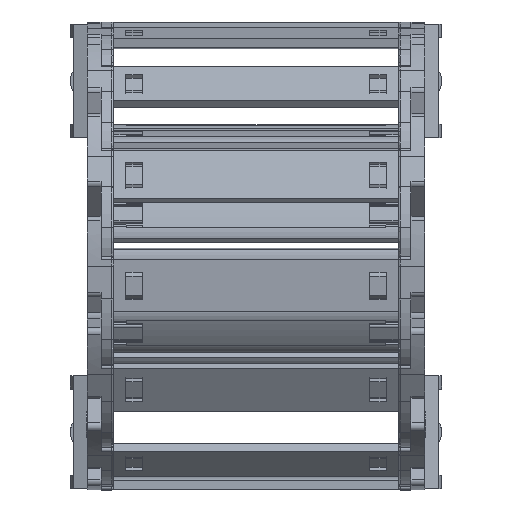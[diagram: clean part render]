
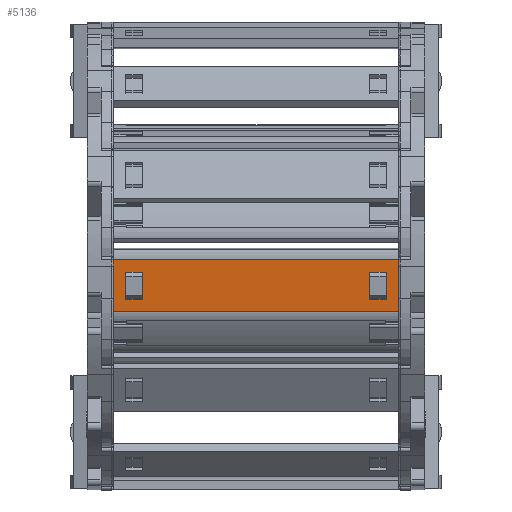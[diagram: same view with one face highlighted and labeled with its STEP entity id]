
A CAD part, top view. The second image highlights one B-rep face of the part: STEP entity #5136.
In plain terms, the highlighted planar face has unit normal (0, -0.104, 0.995) as drawn and (0, 1, 0) by its records, which use the part's own axes.
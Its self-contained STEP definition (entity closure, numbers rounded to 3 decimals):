
#4541=DIRECTION('',(0.,0.,-1.));
#4542=VECTOR('',#4541,11.);
#4543=CARTESIAN_POINT('',(49.283,1.24,5.5));
#4544=LINE('',#4543,#4542);
#4567=DIRECTION('',(1.,0.,0.));
#4568=VECTOR('',#4567,60.5);
#4569=CARTESIAN_POINT('',(-11.217,1.24,5.5));
#4570=LINE('',#4569,#4568);
#4571=DIRECTION('',(0.,0.,1.));
#4572=VECTOR('',#4571,11.);
#4573=CARTESIAN_POINT('',(-11.217,1.24,-5.5));
#4574=LINE('',#4573,#4572);
#4597=DIRECTION('',(1.,0.,0.));
#4598=VECTOR('',#4597,60.5);
#4599=CARTESIAN_POINT('',(-11.217,1.24,-5.5));
#4600=LINE('',#4599,#4598);
#4601=DIRECTION('',(1.,0.,0.));
#4602=VECTOR('',#4601,3.6);
#4603=CARTESIAN_POINT('',(-8.605,1.24,2.899));
#4604=LINE('',#4603,#4602);
#4605=DIRECTION('',(0.,0.,-1.));
#4606=VECTOR('',#4605,5.798);
#4607=CARTESIAN_POINT('',(-5.005,1.24,2.899));
#4608=LINE('',#4607,#4606);
#4609=DIRECTION('',(-1.,0.,0.));
#4610=VECTOR('',#4609,3.6);
#4611=CARTESIAN_POINT('',(-5.005,1.24,-2.899));
#4612=LINE('',#4611,#4610);
#4613=DIRECTION('',(0.,0.,1.));
#4614=VECTOR('',#4613,5.798);
#4615=CARTESIAN_POINT('',(-8.605,1.24,-2.899));
#4616=LINE('',#4615,#4614);
#4617=DIRECTION('',(1.,0.,0.));
#4618=VECTOR('',#4617,3.6);
#4619=CARTESIAN_POINT('',(43.071,1.24,2.899));
#4620=LINE('',#4619,#4618);
#4621=DIRECTION('',(0.,0.,-1.));
#4622=VECTOR('',#4621,5.798);
#4623=CARTESIAN_POINT('',(46.671,1.24,2.899));
#4624=LINE('',#4623,#4622);
#4625=DIRECTION('',(-1.,0.,0.));
#4626=VECTOR('',#4625,3.6);
#4627=CARTESIAN_POINT('',(46.671,1.24,-2.899));
#4628=LINE('',#4627,#4626);
#4629=DIRECTION('',(0.,0.,1.));
#4630=VECTOR('',#4629,5.798);
#4631=CARTESIAN_POINT('',(43.071,1.24,-2.899));
#4632=LINE('',#4631,#4630);
#4940=CARTESIAN_POINT('',(49.283,1.24,5.5));
#4942=VERTEX_POINT('',#4940);
#4943=CARTESIAN_POINT('',(49.283,1.24,-5.5));
#4944=VERTEX_POINT('',#4943);
#4951=CARTESIAN_POINT('',(43.071,1.24,2.899));
#4952=CARTESIAN_POINT('',(46.671,1.24,2.899));
#4953=VERTEX_POINT('',#4951);
#4954=VERTEX_POINT('',#4952);
#4955=CARTESIAN_POINT('',(46.671,1.24,-2.899));
#4956=VERTEX_POINT('',#4955);
#4957=CARTESIAN_POINT('',(43.071,1.24,-2.899));
#4958=VERTEX_POINT('',#4957);
#4995=CARTESIAN_POINT('',(-11.217,1.24,5.5));
#4997=VERTEX_POINT('',#4995);
#4999=CARTESIAN_POINT('',(-11.217,1.24,-5.5));
#5000=VERTEX_POINT('',#4999);
#5007=CARTESIAN_POINT('',(-8.605,1.24,2.899));
#5008=CARTESIAN_POINT('',(-5.005,1.24,2.899));
#5009=VERTEX_POINT('',#5007);
#5010=VERTEX_POINT('',#5008);
#5011=CARTESIAN_POINT('',(-5.005,1.24,-2.899));
#5012=VERTEX_POINT('',#5011);
#5013=CARTESIAN_POINT('',(-8.605,1.24,-2.899));
#5014=VERTEX_POINT('',#5013);
#5104=CARTESIAN_POINT('',(61.769,1.24,6.978));
#5105=DIRECTION('',(0.,-1.,0.));
#5106=DIRECTION('',(0.,0.,-1.));
#5107=AXIS2_PLACEMENT_3D('',#5104,#5105,#5106);
#5108=PLANE('',#5107);
#5109=ORIENTED_EDGE('',*,*,#5050,.F.);
#5110=ORIENTED_EDGE('',*,*,#5073,.F.);
#5111=ORIENTED_EDGE('',*,*,#5086,.F.);
#5113=ORIENTED_EDGE('',*,*,#5112,.T.);
#5114=EDGE_LOOP('',(#5109,#5110,#5111,#5113));
#5115=FACE_OUTER_BOUND('',#5114,.F.);
#5117=ORIENTED_EDGE('',*,*,#5116,.T.);
#5119=ORIENTED_EDGE('',*,*,#5118,.T.);
#5121=ORIENTED_EDGE('',*,*,#5120,.T.);
#5123=ORIENTED_EDGE('',*,*,#5122,.T.);
#5124=EDGE_LOOP('',(#5117,#5119,#5121,#5123));
#5125=FACE_BOUND('',#5124,.F.);
#5127=ORIENTED_EDGE('',*,*,#5126,.T.);
#5129=ORIENTED_EDGE('',*,*,#5128,.T.);
#5131=ORIENTED_EDGE('',*,*,#5130,.T.);
#5133=ORIENTED_EDGE('',*,*,#5132,.T.);
#5134=EDGE_LOOP('',(#5127,#5129,#5131,#5133));
#5135=FACE_BOUND('',#5134,.F.);
#5136=ADVANCED_FACE('',(#5115,#5125,#5135),#5108,.F.);
#5050=EDGE_CURVE('',#4942,#4944,#4544,.T.);
#5073=EDGE_CURVE('',#4997,#4942,#4570,.T.);
#5086=EDGE_CURVE('',#5000,#4997,#4574,.T.);
#5112=EDGE_CURVE('',#5000,#4944,#4600,.T.);
#5116=EDGE_CURVE('',#5009,#5010,#4604,.T.);
#5118=EDGE_CURVE('',#5010,#5012,#4608,.T.);
#5120=EDGE_CURVE('',#5012,#5014,#4612,.T.);
#5122=EDGE_CURVE('',#5014,#5009,#4616,.T.);
#5126=EDGE_CURVE('',#4953,#4954,#4620,.T.);
#5128=EDGE_CURVE('',#4954,#4956,#4624,.T.);
#5130=EDGE_CURVE('',#4956,#4958,#4628,.T.);
#5132=EDGE_CURVE('',#4958,#4953,#4632,.T.);
